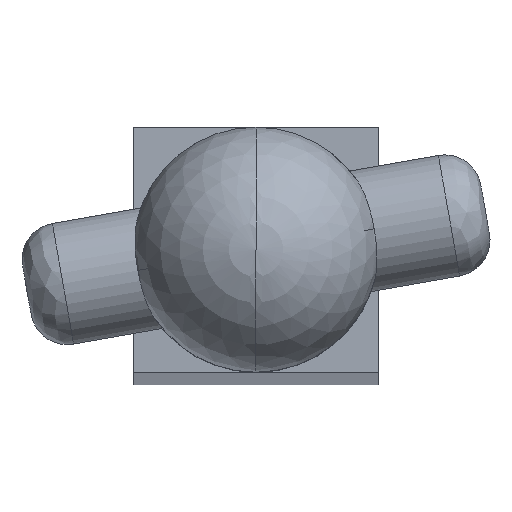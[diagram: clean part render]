
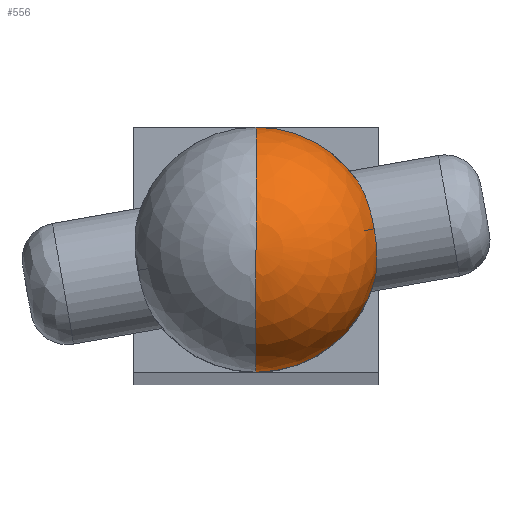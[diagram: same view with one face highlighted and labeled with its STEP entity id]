
A CAD part, top view. The second image highlights one B-rep face of the part: STEP entity #556.
In plain terms, the highlighted spherical face has radius 5 mm.
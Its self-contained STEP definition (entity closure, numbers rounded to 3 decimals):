
#77=CARTESIAN_POINT('',(4.166,2.765,15.));
#103=CARTESIAN_POINT('',(0.,0.,15.));
#104=DIRECTION('',(0.,0.,1.));
#105=DIRECTION('',(0.833,0.553,0.));
#106=AXIS2_PLACEMENT_3D('',#103,#104,#105);
#113=CARTESIAN_POINT('',(0.,0.,15.));
#114=DIRECTION('',(0.,0.,1.));
#115=DIRECTION('',(0.,-1.,0.));
#116=AXIS2_PLACEMENT_3D('',#113,#114,#115);
#142=CARTESIAN_POINT('',(4.86,-1.174,15.));
#227=CARTESIAN_POINT('',(4.825,0.851,16.));
#228=CARTESIAN_POINT('',(4.81,0.934,16.));
#229=CARTESIAN_POINT('',(4.778,1.101,15.991));
#230=CARTESIAN_POINT('',(4.722,1.348,15.952));
#231=CARTESIAN_POINT('',(4.66,1.588,15.888));
#232=CARTESIAN_POINT('',(4.59,1.82,15.798));
#233=CARTESIAN_POINT('',(4.516,2.04,15.684));
#234=CARTESIAN_POINT('',(4.435,2.249,15.546));
#235=CARTESIAN_POINT('',(4.35,2.44,15.386));
#236=CARTESIAN_POINT('',(4.26,2.615,15.204));
#237=CARTESIAN_POINT('',(4.197,2.718,15.07));
#238=CARTESIAN_POINT('',(4.166,2.765,15.));
#240=CARTESIAN_POINT('',(4.86,-1.174,15.));
#241=CARTESIAN_POINT('',(4.874,-1.118,15.07));
#242=CARTESIAN_POINT('',(4.897,-1.001,15.204));
#243=CARTESIAN_POINT('',(4.922,-0.806,15.385));
#244=CARTESIAN_POINT('',(4.936,-0.597,15.545));
#245=CARTESIAN_POINT('',(4.941,-0.374,15.683));
#246=CARTESIAN_POINT('',(4.936,-0.142,15.797));
#247=CARTESIAN_POINT('',(4.922,0.098,15.887));
#248=CARTESIAN_POINT('',(4.898,0.347,15.952));
#249=CARTESIAN_POINT('',(4.866,0.599,15.991));
#250=CARTESIAN_POINT('',(4.839,0.767,16.));
#251=CARTESIAN_POINT('',(4.825,0.851,16.));
#253=CARTESIAN_POINT('',(0.,0.,15.));
#254=DIRECTION('',(1.,0.,0.));
#255=DIRECTION('',(0.,0.,1.));
#256=AXIS2_PLACEMENT_3D('',#253,#254,#255);
#271=CARTESIAN_POINT('',(0.,0.,15.));
#272=DIRECTION('',(-1.,0.,0.));
#273=DIRECTION('',(0.,0.,1.));
#274=AXIS2_PLACEMENT_3D('',#271,#272,#273);
#317=CARTESIAN_POINT('',(0.,5.,15.));
#318=VERTEX_POINT('',#317);
#319=CARTESIAN_POINT('',(0.,-5.,15.));
#320=VERTEX_POINT('',#319);
#321=CARTESIAN_POINT('',(0.,0.,20.));
#322=VERTEX_POINT('',#321);
#327=CARTESIAN_POINT('',(4.825,0.851,16.));
#328=VERTEX_POINT('',#327);
#331=VERTEX_POINT('',#77);
#332=VERTEX_POINT('',#142);
#541=CARTESIAN_POINT('',(0.,0.,15.));
#542=DIRECTION('',(0.,0.,1.));
#543=DIRECTION('',(0.,-1.,0.));
#544=AXIS2_PLACEMENT_3D('',#541,#542,#543);
#545=SPHERICAL_SURFACE('',#544,5.);
#546=ORIENTED_EDGE('',*,*,#499,.F.);
#547=ORIENTED_EDGE('',*,*,#533,.F.);
#548=ORIENTED_EDGE('',*,*,#481,.F.);
#550=ORIENTED_EDGE('',*,*,#549,.F.);
#552=ORIENTED_EDGE('',*,*,#551,.T.);
#553=ORIENTED_EDGE('',*,*,#474,.F.);
#554=EDGE_LOOP('',(#546,#547,#548,#550,#552,#553));
#555=FACE_OUTER_BOUND('',#554,.F.);
#556=ADVANCED_FACE('',(#555),#545,.T.);
#107=CIRCLE('',#106,5.);
#117=CIRCLE('',#116,5.);
#239=B_SPLINE_CURVE_WITH_KNOTS('',3,(#227,#228,#229,#230,#231,#232,#233,#234,
#235,#236,#237,#238),.UNSPECIFIED.,.F.,.F.,(4,1,1,1,1,1,1,1,1,4),(0.,
0.111,0.222,0.333,0.444,
0.556,0.667,0.778,0.889,1.),
.UNSPECIFIED.);
#252=B_SPLINE_CURVE_WITH_KNOTS('',3,(#240,#241,#242,#243,#244,#245,#246,#247,
#248,#249,#250,#251),.UNSPECIFIED.,.F.,.F.,(4,1,1,1,1,1,1,1,1,4),(0.,
0.111,0.222,0.333,0.444,
0.556,0.667,0.778,0.889,1.),
.UNSPECIFIED.);
#257=CIRCLE('',#256,5.);
#275=CIRCLE('',#274,5.);
#474=EDGE_CURVE('',#331,#318,#107,.T.);
#481=EDGE_CURVE('',#320,#332,#117,.T.);
#499=EDGE_CURVE('',#328,#331,#239,.T.);
#533=EDGE_CURVE('',#332,#328,#252,.T.);
#549=EDGE_CURVE('',#322,#320,#257,.T.);
#551=EDGE_CURVE('',#322,#318,#275,.T.);
